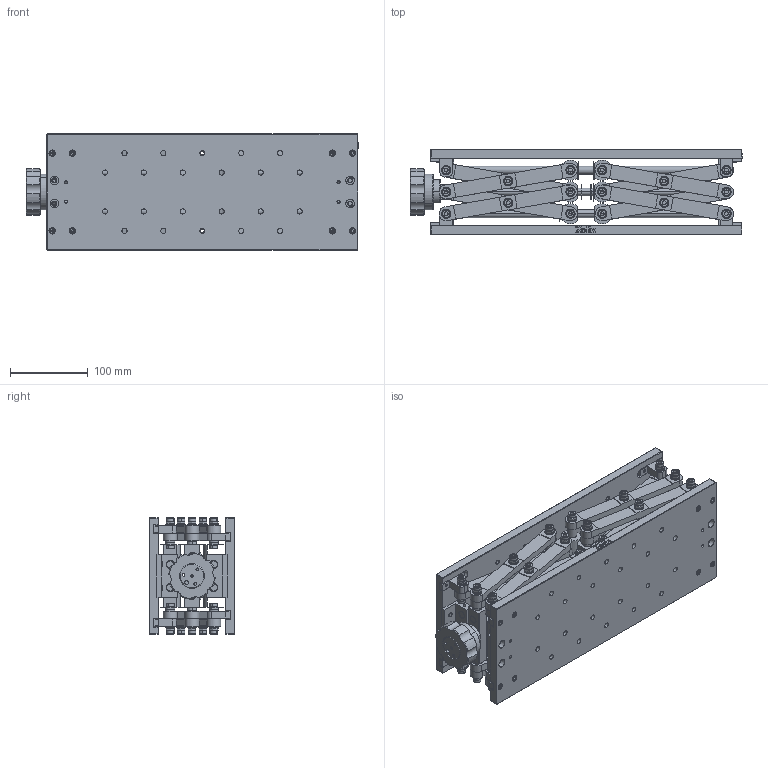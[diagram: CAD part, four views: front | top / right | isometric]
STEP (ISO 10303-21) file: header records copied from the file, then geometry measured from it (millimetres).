
FILE_DESCRIPTION (( 'STEP AP203' ), '1' );
FILE_NAME ('MJ240.step', '2019-05-08T07:13:57', ( '' ), ( '' ), 'SwSTEP 2.0', 'SolidWorks 2017', '' );
FILE_SCHEMA (( 'CONFIG_CONTROL_DESIGN' ));
Length unit declared in the file: millimetre
Products named in the file (1): MJ240
Bounding box: 426.5 x 110 x 150 mm (x, y, z)
Surface area: 572280.2 mm2 (no closed solid volume)
Topology: 0 solids, 246 shells, 2009 faces, 6311 edges, 4454 vertices
Faces by surface type: plane 1007, cylinder 649, cone 301, torus 52
Entity records: 74760 total; most frequent: CARTESIAN_POINT 18501, DIRECTION 12084, ORIENTED_EDGE 10082, EDGE_CURVE 6291, VERTEX_POINT 4454, AXIS2_PLACEMENT_3D 4345, VECTOR 3394, LINE 3394
